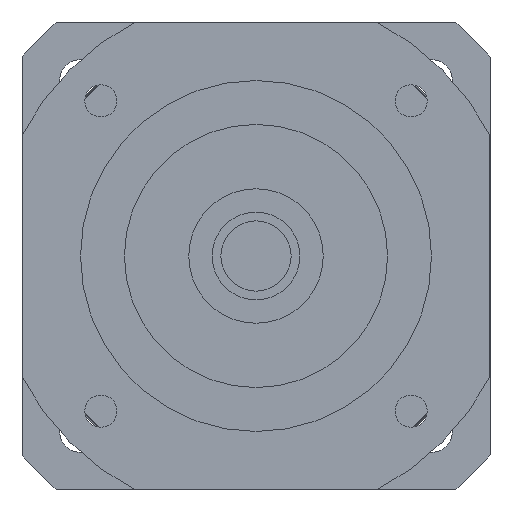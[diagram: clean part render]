
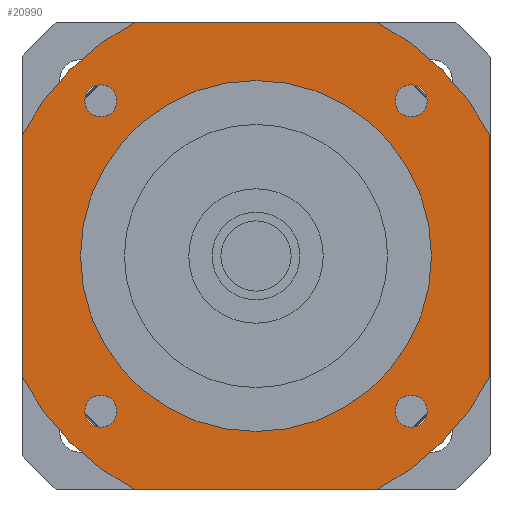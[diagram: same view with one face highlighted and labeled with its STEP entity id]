
A CAD part, left-side view. The second image highlights one B-rep face of the part: STEP entity #20990.
In plain terms, the highlighted planar face has unit normal (-1, 0, 0) as drawn and (0, 0, -1) by its records, which use the part's own axes.
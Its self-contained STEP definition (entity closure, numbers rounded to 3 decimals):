
#19320=CARTESIAN_POINT('',(-23.767,26.517,-42.));
#19330=VERTEX_POINT('',#19320);
#19360=CARTESIAN_POINT('',(-26.517,26.517,-42.));
#19370=DIRECTION('',(0.,0.,-1.));
#19380=DIRECTION('',(-1.,0.,0.));
#19390=AXIS2_PLACEMENT_3D('',#19360,#19370,#19380);
#19400=CIRCLE('',#19390,2.75);
#19410=CARTESIAN_POINT('',(-29.267,26.517,-42.));
#19420=VERTEX_POINT('',#19410);
#19430=EDGE_CURVE('',#19420,#19330,#19400,.T.);
#19550=CARTESIAN_POINT('',(40.,40.,-42.));
#19560=DIRECTION('',(0.,0.,-1.));
#19570=DIRECTION('',(1.,0.,0.));
#19580=AXIS2_PLACEMENT_3D('',#19550,#19560,#19570);
#19590=PLANE('',#19580);
#19600=CARTESIAN_POINT('',(-26.517,-26.517,-42.));
#19610=DIRECTION('',(0.,0.,-1.));
#19620=DIRECTION('',(0.,-1.,0.));
#19630=AXIS2_PLACEMENT_3D('',#19600,#19610,#19620);
#19640=CIRCLE('',#19630,2.75);
#19650=CARTESIAN_POINT('',(-26.517,-29.267,-42.));
#19660=VERTEX_POINT('',#19650);
#19670=CARTESIAN_POINT('',(-26.517,-23.767,-42.));
#19680=VERTEX_POINT('',#19670);
#19690=EDGE_CURVE('',#19660,#19680,#19640,.T.);
#19700=ORIENTED_EDGE('',*,*,#19690,.F.);
#19710=EDGE_CURVE('',#19680,#19660,#19640,.T.);
#19720=ORIENTED_EDGE('',*,*,#19710,.F.);
#19730=EDGE_LOOP('',(#19720,#19700));
#19740=FACE_BOUND('',#19730,.T.);
#19750=ORIENTED_EDGE('',*,*,#19430,.F.);
#19760=EDGE_CURVE('',#19330,#19420,#19400,.T.);
#19770=ORIENTED_EDGE('',*,*,#19760,.F.);
#19780=EDGE_LOOP('',(#19770,#19750));
#19790=FACE_BOUND('',#19780,.T.);
#19800=CARTESIAN_POINT('',(26.517,26.517,-42.));
#19810=DIRECTION('',(0.,0.,-1.));
#19820=DIRECTION('',(0.,1.,0.));
#19830=AXIS2_PLACEMENT_3D('',#19800,#19810,#19820);
#19840=CIRCLE('',#19830,2.75);
#19850=CARTESIAN_POINT('',(26.517,29.267,-42.));
#19860=VERTEX_POINT('',#19850);
#19870=CARTESIAN_POINT('',(26.517,23.767,-42.));
#19880=VERTEX_POINT('',#19870);
#19890=EDGE_CURVE('',#19860,#19880,#19840,.T.);
#19900=ORIENTED_EDGE('',*,*,#19890,.F.);
#19910=EDGE_CURVE('',#19880,#19860,#19840,.T.);
#19920=ORIENTED_EDGE('',*,*,#19910,.F.);
#19930=EDGE_LOOP('',(#19920,#19900));
#19940=FACE_BOUND('',#19930,.T.);
#19950=CARTESIAN_POINT('',(0.,0.,
-42.));
#19960=DIRECTION('',(0.,0.,1.));
#19970=DIRECTION('',(0.,1.,0.));
#19980=AXIS2_PLACEMENT_3D('',#19950,#19960,#19970);
#19990=CIRCLE('',#19980,30.);
#20000=CARTESIAN_POINT('',(-30.,0.,-42.));
#20010=VERTEX_POINT('',#20000);
#20020=CARTESIAN_POINT('',(30.,0.,-42.));
#20030=VERTEX_POINT('',#20020);
#20040=EDGE_CURVE('',#20010,#20030,#19990,.T.);
#20050=ORIENTED_EDGE('',*,*,#20040,.T.);
#20060=CARTESIAN_POINT('',(0.,30.,-42.));
#20070=VERTEX_POINT('',#20060);
#20080=EDGE_CURVE('',#20070,#20010,#19990,.T.);
#20090=ORIENTED_EDGE('',*,*,#20080,.T.);
#20100=EDGE_CURVE('',#20030,#20070,#19990,.T.);
#20110=ORIENTED_EDGE('',*,*,#20100,.T.);
#20120=EDGE_LOOP('',(#20110,#20090,#20050));
#20130=FACE_BOUND('',#20120,.T.);
#20140=CARTESIAN_POINT('',(-40.,40.,-42.));
#20150=DIRECTION('',(1.,0.,0.));
#20160=VECTOR('',#20150,1000.);
#20170=LINE('',#20140,#20160);
#20180=CARTESIAN_POINT('',(-20.616,40.,-42.));
#20190=VERTEX_POINT('',#20180);
#20200=CARTESIAN_POINT('',(20.616,40.,-42.));
#20210=VERTEX_POINT('',#20200);
#20220=EDGE_CURVE('',#20190,#20210,#20170,.T.);
#20230=ORIENTED_EDGE('',*,*,#20220,.T.);
#20240=CARTESIAN_POINT('',(0.,0.,
-42.));
#20250=DIRECTION('',(0.,0.,-1.));
#20260=DIRECTION('',(1.,0.,0.));
#20270=AXIS2_PLACEMENT_3D('',#20240,#20250,#20260);
#20280=CIRCLE('',#20270,45.);
#20290=CARTESIAN_POINT('',(-40.,20.616,-42.));
#20300=VERTEX_POINT('',#20290);
#20310=EDGE_CURVE('',#20300,#20190,#20280,.T.);
#20320=ORIENTED_EDGE('',*,*,#20310,.T.);
#20330=CARTESIAN_POINT('',(-40.,-40.,-42.));
#20340=DIRECTION('',(0.,1.,0.));
#20350=VECTOR('',#20340,1000.);
#20360=LINE('',#20330,#20350);
#20370=CARTESIAN_POINT('',(-40.,-20.616,-42.));
#20380=VERTEX_POINT('',#20370);
#20390=EDGE_CURVE('',#20380,#20300,#20360,.T.);
#20400=ORIENTED_EDGE('',*,*,#20390,.T.);
#20410=CARTESIAN_POINT('',(0.,0.,
-42.));
#20420=DIRECTION('',(0.,0.,-1.));
#20430=DIRECTION('',(1.,0.,0.));
#20440=AXIS2_PLACEMENT_3D('',#20410,#20420,#20430);
#20450=CIRCLE('',#20440,45.);
#20460=CARTESIAN_POINT('',(-20.616,-40.,-42.));
#20470=VERTEX_POINT('',#20460);
#20480=EDGE_CURVE('',#20470,#20380,#20450,.T.);
#20490=ORIENTED_EDGE('',*,*,#20480,.T.);
#20500=CARTESIAN_POINT('',(40.,-40.,-42.));
#20510=DIRECTION('',(-1.,0.,0.));
#20520=VECTOR('',#20510,1000.);
#20530=LINE('',#20500,#20520);
#20540=CARTESIAN_POINT('',(20.616,-40.,-42.));
#20550=VERTEX_POINT('',#20540);
#20560=EDGE_CURVE('',#20550,#20470,#20530,.T.);
#20570=ORIENTED_EDGE('',*,*,#20560,.T.);
#20580=CARTESIAN_POINT('',(0.,0.,
-42.));
#20590=DIRECTION('',(0.,0.,-1.));
#20600=DIRECTION('',(1.,0.,0.));
#20610=AXIS2_PLACEMENT_3D('',#20580,#20590,#20600);
#20620=CIRCLE('',#20610,45.);
#20630=CARTESIAN_POINT('',(40.,-20.616,-42.));
#20640=VERTEX_POINT('',#20630);
#20650=EDGE_CURVE('',#20640,#20550,#20620,.T.);
#20660=ORIENTED_EDGE('',*,*,#20650,.T.);
#20670=CARTESIAN_POINT('',(40.,40.,-42.));
#20680=DIRECTION('',(0.,-1.,0.));
#20690=VECTOR('',#20680,1000.);
#20700=LINE('',#20670,#20690);
#20710=CARTESIAN_POINT('',(40.,20.616,-42.));
#20720=VERTEX_POINT('',#20710);
#20730=EDGE_CURVE('',#20720,#20640,#20700,.T.);
#20740=ORIENTED_EDGE('',*,*,#20730,.T.);
#20750=CARTESIAN_POINT('',(0.,0.,
-42.));
#20760=DIRECTION('',(0.,0.,-1.));
#20770=DIRECTION('',(1.,0.,0.));
#20780=AXIS2_PLACEMENT_3D('',#20750,#20760,#20770);
#20790=CIRCLE('',#20780,45.);
#20800=EDGE_CURVE('',#20210,#20720,#20790,.T.);
#20810=ORIENTED_EDGE('',*,*,#20800,.T.);
#20820=EDGE_LOOP('',(#20810,#20740,#20660,#20570,#20490,#20400,#20320,
#20230));
#20830=FACE_OUTER_BOUND('',#20820,.T.);
#20840=CARTESIAN_POINT('',(26.517,-26.517,-42.));
#20850=DIRECTION('',(0.,0.,-1.));
#20860=DIRECTION('',(1.,0.,0.));
#20870=AXIS2_PLACEMENT_3D('',#20840,#20850,#20860);
#20880=CIRCLE('',#20870,2.75);
#20890=CARTESIAN_POINT('',(29.267,-26.517,-42.));
#20900=VERTEX_POINT('',#20890);
#20910=CARTESIAN_POINT('',(23.767,-26.517,-42.));
#20920=VERTEX_POINT('',#20910);
#20930=EDGE_CURVE('',#20900,#20920,#20880,.T.);
#20940=ORIENTED_EDGE('',*,*,#20930,.F.);
#20950=EDGE_CURVE('',#20920,#20900,#20880,.T.);
#20960=ORIENTED_EDGE('',*,*,#20950,.F.);
#20970=EDGE_LOOP('',(#20960,#20940));
#20980=FACE_BOUND('',#20970,.T.);
#20990=ADVANCED_FACE('',(#19740,#19790,#19940,#20130,#20830,#20980),
#19590,.T.);
